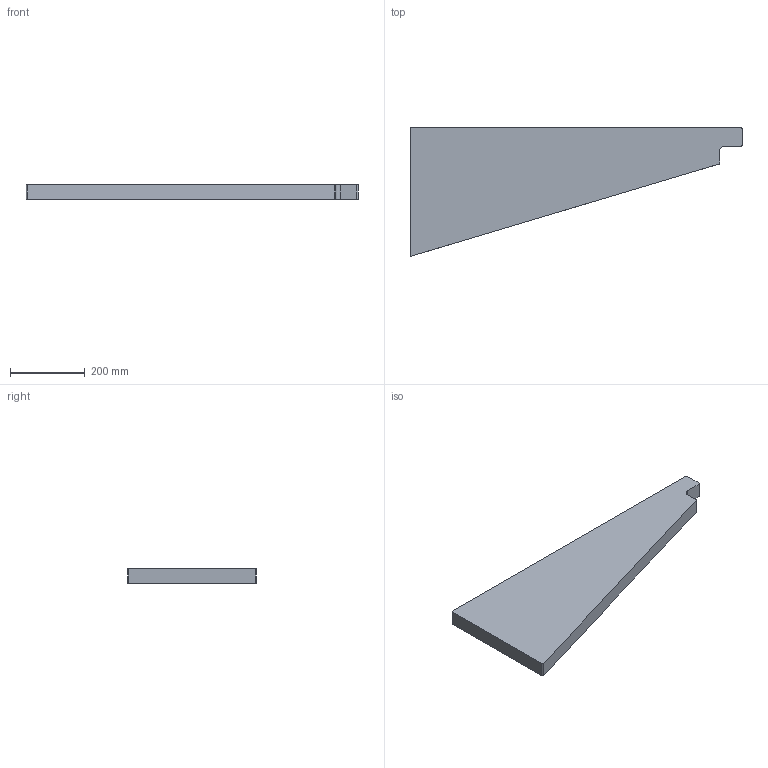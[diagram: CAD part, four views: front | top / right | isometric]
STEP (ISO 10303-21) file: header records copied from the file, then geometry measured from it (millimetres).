
FILE_DESCRIPTION(/* description */ (''),/* implementation_level */ '2;1');
FILE_NAME(/* name */ 'Pos107-Hout D= 40-Hout-3st',/* time_stamp */ '2024-08-06T13:37:43+02:00',/* author */ (''),/* organization */ (''),/* preprocessor_version */ 'ST-DEVELOPER v16.5',/* originating_system */ 'HiCAD 2024 2901.2 Build 361',/* authorisation */ '');
FILE_SCHEMA (('AUTOMOTIVE_DESIGN { 1 0 10303 214 1 1 1 1 }'));
Length unit declared in the file: millimetre
Products named in the file (2): Pos107-Hout D= 40-Hout-3st; Pos0-Antislip-Rubber-0st
Assembly tree (1 placements, depth 2):
  Pos107-Hout D= 40-Hout-3st
    Pos0-Antislip-Rubber-0st
Bounding box: 890 x 343.81 x 40 mm (x, y, z)
Volume: 7451292.5 mm3; surface area: 462386.4 mm2
Topology: 1 solids, 1 shells, 14 faces, 36 edges, 24 vertices
Faces by surface type: plane 8, cylinder 6
Entity records: 836 total; most frequent: DIRECTION 80, CARTESIAN_POINT 76, PRESENTATION_STYLE_ASSIGNMENT 73, COLOUR_RGB 73, DRAUGHTING_PRE_DEFINED_CURVE_FONT 72, CURVE_STYLE 72, OVER_RIDING_STYLED_ITEM 72, ORIENTED_EDGE 72
